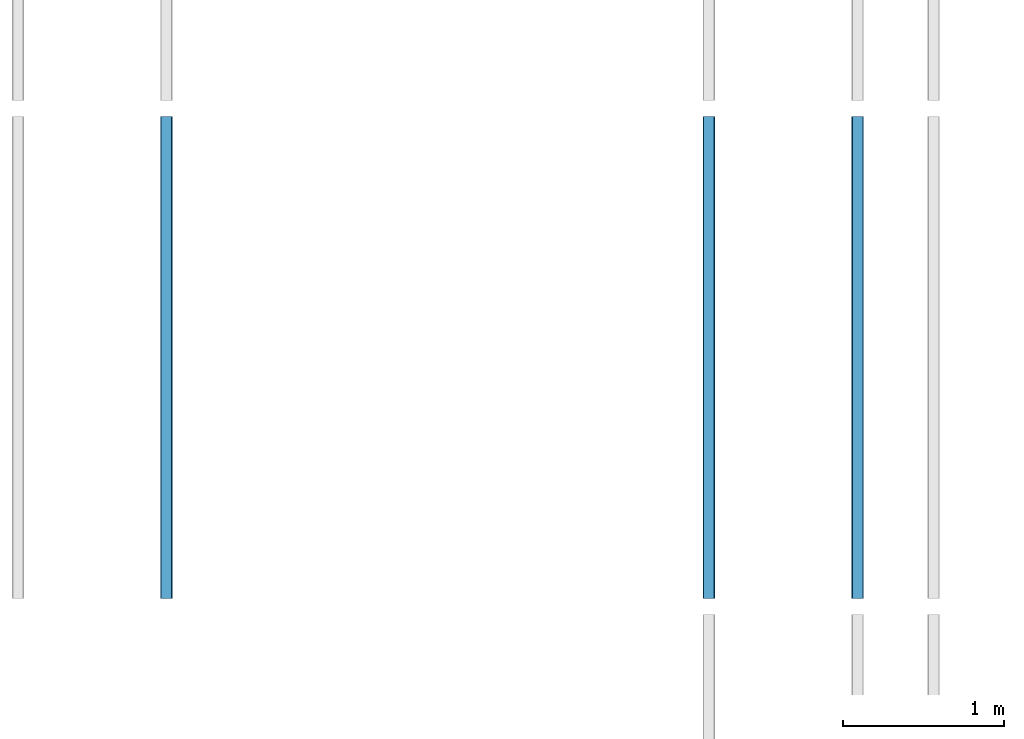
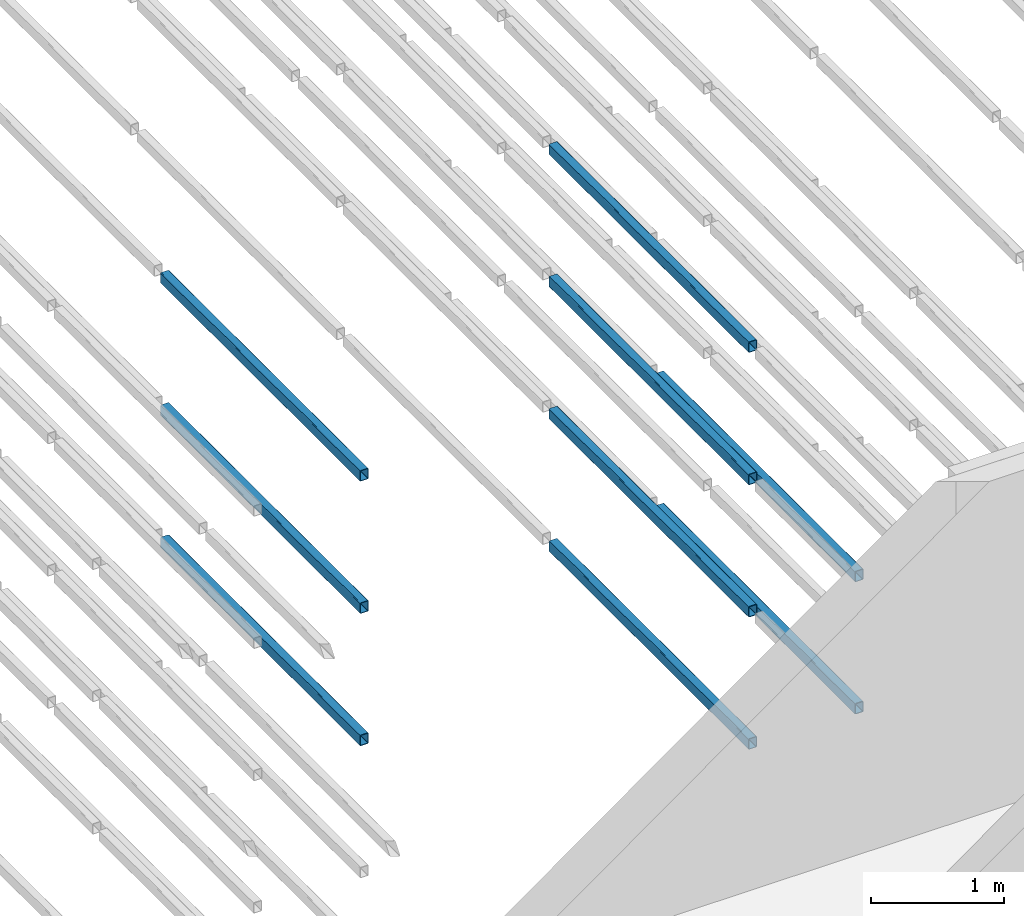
# One storey, part 25 of 290: 9 beams.
"""IFC2X3 building model written with IfcOpenShell, lengths in metres."""

from ifc_helpers import new_model, entity, si_unit, converted_unit, derived_unit, direction, frame, frame_2d, origin, place, context, subcontext, project, spatial, polyline, circle_curve, parameter, trimmed, segment, composite_curve, outline, extrude, material, type_object, element, save


model = new_model("IFC2X3")

# Units and contexts
model_context = context("Model", 3, precision=1e-05, world=origin(), true_north=direction((6.12303176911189e-17, 1.0)))
body_context = subcontext(model_context, "Body", "Model", "MODEL_VIEW")
ifc_project = project(units=[si_unit("LENGTHUNIT", "METRE"), si_unit("AREAUNIT", "SQUARE_METRE"), si_unit("VOLUMEUNIT", "CUBIC_METRE"), converted_unit("PLANEANGLEUNIT", "DEGREE", entity("IfcRatioMeasure", 0.0174532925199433), si_unit("PLANEANGLEUNIT", "RADIAN"), dimensions=[0, 0, 0, 0, 0, 0, 0]), si_unit("MASSUNIT", "GRAM", prefix="KILO"), derived_unit("MASSDENSITYUNIT", [(si_unit("MASSUNIT", "GRAM", prefix="KILO"), 1), (si_unit("LENGTHUNIT", "METRE"), -3)]), derived_unit("MOMENTOFINERTIAUNIT", [(si_unit("LENGTHUNIT", "METRE"), 4)]), si_unit("TIMEUNIT", "SECOND"), si_unit("FREQUENCYUNIT", "HERTZ"), si_unit("THERMODYNAMICTEMPERATUREUNIT", "DEGREE_CELSIUS"), derived_unit("THERMALTRANSMITTANCEUNIT", [(si_unit("MASSUNIT", "GRAM", prefix="KILO"), 1), (si_unit("THERMODYNAMICTEMPERATUREUNIT", "KELVIN"), -1), (si_unit("TIMEUNIT", "SECOND"), -3)]), derived_unit("VOLUMETRICFLOWRATEUNIT", [(si_unit("LENGTHUNIT", "METRE"), 3), (si_unit("TIMEUNIT", "SECOND"), -1)]), si_unit("ELECTRICCURRENTUNIT", "AMPERE"), si_unit("ELECTRICVOLTAGEUNIT", "VOLT"), si_unit("POWERUNIT", "WATT"), si_unit("FORCEUNIT", "NEWTON", prefix="KILO"), si_unit("ILLUMINANCEUNIT", "LUX"), si_unit("LUMINOUSFLUXUNIT", "LUMEN"), si_unit("LUMINOUSINTENSITYUNIT", "CANDELA"), derived_unit("USERDEFINED", [(si_unit("MASSUNIT", "GRAM", prefix="KILO"), -1), (si_unit("LENGTHUNIT", "METRE"), -2), (si_unit("TIMEUNIT", "SECOND"), 3), (si_unit("LUMINOUSFLUXUNIT", "LUMEN"), 1)]), derived_unit("LINEARVELOCITYUNIT", [(si_unit("LENGTHUNIT", "METRE"), 1), (si_unit("TIMEUNIT", "SECOND"), -1)]), si_unit("PRESSUREUNIT", "PASCAL"), derived_unit("USERDEFINED", [(si_unit("LENGTHUNIT", "METRE"), -2), (si_unit("MASSUNIT", "GRAM", prefix="KILO"), 1), (si_unit("TIMEUNIT", "SECOND"), -2)]), derived_unit("LINEARFORCEUNIT", [(si_unit("MASSUNIT", "GRAM", prefix="KILO"), 1), (si_unit("LENGTHUNIT", "METRE"), 1), (si_unit("TIMEUNIT", "SECOND"), -2), (si_unit("LENGTHUNIT", "METRE"), -1)]), derived_unit("PLANARFORCEUNIT", [(si_unit("MASSUNIT", "GRAM", prefix="KILO"), 1), (si_unit("LENGTHUNIT", "METRE"), 1), (si_unit("TIMEUNIT", "SECOND"), -2), (si_unit("LENGTHUNIT", "METRE"), -2)])], contexts=[model_context])

# Site, building, storey
site_placement = place(None, origin())
site = spatial("IfcSite", under=ifc_project, at=site_placement, Name="Default", CompositionType="ELEMENT")
building_placement = place(site_placement, origin())
building = spatial("IfcBuilding", under=site, at=building_placement, CompositionType="ELEMENT")
storey_placement = place(building_placement, frame((0.0, 0.0, 4.0)))
storey = spatial("IfcBuildingStorey", under=building, at=storey_placement, Name="01_OG", CompositionType="ELEMENT", Elevation=4.0)

# Beams
ifc_material = material(Name="Metall - Baustahl S235 blau")
beam_type = type_object("IfcBeamType", Name="RHS Träger (EN 10219-2):RHS 100 x 75 x 5", PredefinedType="NOTDEFINED")
beam_1_placement = place(storey_placement, frame((-194.165111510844, 27.148088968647, 0.0150000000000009), z_axis=(0.0, 0.0, 1.0), x_axis=(0.0, 1.0, 0.0)))
element("IfcBeam", 1, at=beam_1_placement, inside=storey, type_object=beam_type, material=ifc_material, Name="RHS Träger (EN 10219-2):RHS 100 x 75 x 5", ObjectType="RHS Träger (EN 10219-2):RHS 100 x 75 x 5", context=body_context, shape_type="SweptSolid", body=[
    extrude(outline(composite_curve([segment(polyline([(-0.0400000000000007, -0.0374999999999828), (0.0399999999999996, -0.0374999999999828)]), True, "CONTINUOUS"), segment(trimmed(circle_curve(frame_2d((0.0399999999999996, -0.0274999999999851), x_axis=(0.0, 1.0)), 0.01), [parameter(180.0)], [parameter(270.0)], True, "PARAMETER"), True, "CONTINUOUS"), segment(polyline([(0.0499999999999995, -0.0274999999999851), (0.0499999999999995, 0.0274999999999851)]), True, "CONTINUOUS"), segment(trimmed(circle_curve(frame_2d((0.0399999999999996, 0.0274999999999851), x_axis=(0.0, 1.0)), 0.01), [parameter(270.0)], [parameter(4.07110999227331e-13)], True, "PARAMETER"), True, "CONTINUOUS"), segment(polyline([(0.0399999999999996, 0.0375000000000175), (-0.0400000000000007, 0.0375000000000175)]), True, "CONTINUOUS"), segment(trimmed(circle_curve(frame_2d((-0.0400000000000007, 0.0274999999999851), x_axis=(0.0, 1.0)), 0.01), [parameter(360.0)], [parameter(90.0000000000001)], True, "PARAMETER"), True, "CONTINUOUS"), segment(polyline([(-0.0500000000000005, 0.0274999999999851), (-0.0500000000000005, -0.0274999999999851)]), True, "CONTINUOUS"), segment(trimmed(circle_curve(frame_2d((-0.0400000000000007, -0.0274999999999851), x_axis=(0.0, 1.0)), 0.01), [parameter(90.0000000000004)], [parameter(180.0)], True, "PARAMETER"), True, "CONTINUOUS")], self_intersect=False), holes=[composite_curve([segment(trimmed(circle_curve(frame_2d((-0.0400000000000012, 0.0274999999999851), x_axis=(0.0, 1.0)), 0.005), [parameter(360.0)], [parameter(89.9999999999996)], True, "PARAMETER"), False, "CONTINUOUS"), segment(polyline([(-0.0400000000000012, 0.0325000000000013), (0.0399999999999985, 0.0325000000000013)]), True, "CONTINUOUS"), segment(trimmed(circle_curve(frame_2d((0.0399999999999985, 0.0274999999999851), x_axis=(0.0, 1.0)), 0.005), [parameter(270.0)], [parameter(0.0)], True, "PARAMETER"), False, "CONTINUOUS"), segment(polyline([(0.0449999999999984, 0.0274999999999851), (0.0449999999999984, -0.0274999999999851)]), True, "CONTINUOUS"), segment(trimmed(circle_curve(frame_2d((0.0399999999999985, -0.0274999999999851), x_axis=(0.0, 1.0)), 0.005), [parameter(180.0)], [parameter(269.999999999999)], True, "PARAMETER"), False, "CONTINUOUS"), segment(polyline([(0.0399999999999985, -0.0325000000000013), (-0.0400000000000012, -0.0325000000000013)]), True, "CONTINUOUS"), segment(trimmed(circle_curve(frame_2d((-0.0400000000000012, -0.0274999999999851), x_axis=(0.0, 1.0)), 0.005), [parameter(90.0000000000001)], [parameter(180.0)], True, "PARAMETER"), False, "CONTINUOUS"), segment(polyline([(-0.0450000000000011, -0.0274999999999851), (-0.0450000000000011, 0.0274999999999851)]), True, "CONTINUOUS")], self_intersect=False)]), frame((0.000100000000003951, -0.0375000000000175, -0.0500000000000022), z_axis=(1.0, 0.0, 0.0), x_axis=(0.0, 0.0, -1.0)), (0.0, 0.0, 1.0), 2.9998),
])
beam_2_placement = place(storey_placement, frame((-194.165111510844, 27.148088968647, 1.23), z_axis=(0.0, 0.0, 1.0), x_axis=(0.0, 1.0, 0.0)))
element("IfcBeam", 2, at=beam_2_placement, inside=storey, type_object=beam_type, material=ifc_material, Name="RHS Träger (EN 10219-2):RHS 100 x 75 x 5", ObjectType="RHS Träger (EN 10219-2):RHS 100 x 75 x 5", context=body_context, shape_type="SweptSolid", body=[
    extrude(outline(composite_curve([segment(polyline([(-0.0399999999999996, -0.0374999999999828), (0.0399999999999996, -0.0374999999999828)]), True, "CONTINUOUS"), segment(trimmed(circle_curve(frame_2d((0.0399999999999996, -0.0274999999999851), x_axis=(0.0, 1.0)), 0.01), [parameter(180.0)], [parameter(270.0)], True, "PARAMETER"), True, "CONTINUOUS"), segment(polyline([(0.0500000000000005, -0.0274999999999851), (0.0500000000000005, 0.0274999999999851)]), True, "CONTINUOUS"), segment(trimmed(circle_curve(frame_2d((0.0399999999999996, 0.0274999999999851), x_axis=(0.0, 1.0)), 0.01), [parameter(270.0)], [parameter(4.07110999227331e-13)], True, "PARAMETER"), True, "CONTINUOUS"), segment(polyline([(0.0399999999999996, 0.0375000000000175), (-0.0399999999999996, 0.0375000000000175)]), True, "CONTINUOUS"), segment(trimmed(circle_curve(frame_2d((-0.0399999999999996, 0.0274999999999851), x_axis=(0.0, 1.0)), 0.01), [parameter(360.0)], [parameter(90.0000000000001)], True, "PARAMETER"), True, "CONTINUOUS"), segment(polyline([(-0.0499999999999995, 0.0274999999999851), (-0.0499999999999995, -0.0274999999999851)]), True, "CONTINUOUS"), segment(trimmed(circle_curve(frame_2d((-0.0399999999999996, -0.0274999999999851), x_axis=(0.0, 1.0)), 0.01), [parameter(90.0000000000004)], [parameter(180.0)], True, "PARAMETER"), True, "CONTINUOUS")], self_intersect=False), holes=[composite_curve([segment(trimmed(circle_curve(frame_2d((-0.0400000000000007, 0.0274999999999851), x_axis=(0.0, 1.0)), 0.005), [parameter(360.0)], [parameter(89.9999999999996)], True, "PARAMETER"), False, "CONTINUOUS"), segment(polyline([(-0.0400000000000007, 0.0325000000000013), (0.0399999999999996, 0.0325000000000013)]), True, "CONTINUOUS"), segment(trimmed(circle_curve(frame_2d((0.0399999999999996, 0.0274999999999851), x_axis=(0.0, 1.0)), 0.005), [parameter(270.0)], [parameter(0.0)], True, "PARAMETER"), False, "CONTINUOUS"), segment(polyline([(0.0449999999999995, 0.0274999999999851), (0.0449999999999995, -0.0274999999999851)]), True, "CONTINUOUS"), segment(trimmed(circle_curve(frame_2d((0.0399999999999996, -0.0274999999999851), x_axis=(0.0, 1.0)), 0.005), [parameter(180.0)], [parameter(269.999999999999)], True, "PARAMETER"), False, "CONTINUOUS"), segment(polyline([(0.0399999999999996, -0.0325000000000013), (-0.0400000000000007, -0.0325000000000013)]), True, "CONTINUOUS"), segment(trimmed(circle_curve(frame_2d((-0.0400000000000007, -0.0274999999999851), x_axis=(0.0, 1.0)), 0.005), [parameter(90.0000000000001)], [parameter(180.0)], True, "PARAMETER"), False, "CONTINUOUS"), segment(polyline([(-0.0450000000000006, -0.0274999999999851), (-0.0450000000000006, 0.0274999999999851)]), True, "CONTINUOUS")], self_intersect=False)]), frame((0.000100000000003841, -0.0375000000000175, -0.0500000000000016), z_axis=(1.0, 0.0, 0.0), x_axis=(0.0, 0.0, -1.0)), (0.0, 0.0, 1.0), 2.9998),
])
beam_3_placement = place(storey_placement, frame((-194.165111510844, 27.148088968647, 2.445), z_axis=(0.0, 0.0, 1.0), x_axis=(0.0, 1.0, 0.0)))
element("IfcBeam", 3, at=beam_3_placement, inside=storey, type_object=beam_type, material=ifc_material, Name="RHS Träger (EN 10219-2):RHS 100 x 75 x 5", ObjectType="RHS Träger (EN 10219-2):RHS 100 x 75 x 5", context=body_context, shape_type="SweptSolid", body=[
    extrude(outline(composite_curve([segment(polyline([(-0.0399999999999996, -0.0374999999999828), (0.0399999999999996, -0.0374999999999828)]), True, "CONTINUOUS"), segment(trimmed(circle_curve(frame_2d((0.0399999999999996, -0.0274999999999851), x_axis=(0.0, 1.0)), 0.01), [parameter(180.0)], [parameter(270.0)], True, "PARAMETER"), True, "CONTINUOUS"), segment(polyline([(0.0500000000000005, -0.0274999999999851), (0.0500000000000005, 0.0274999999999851)]), True, "CONTINUOUS"), segment(trimmed(circle_curve(frame_2d((0.0399999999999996, 0.0274999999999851), x_axis=(0.0, 1.0)), 0.01), [parameter(270.0)], [parameter(4.07110999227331e-13)], True, "PARAMETER"), True, "CONTINUOUS"), segment(polyline([(0.0399999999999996, 0.0375000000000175), (-0.0399999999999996, 0.0375000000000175)]), True, "CONTINUOUS"), segment(trimmed(circle_curve(frame_2d((-0.0399999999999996, 0.0274999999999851), x_axis=(0.0, 1.0)), 0.01), [parameter(360.0)], [parameter(90.0000000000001)], True, "PARAMETER"), True, "CONTINUOUS"), segment(polyline([(-0.0499999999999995, 0.0274999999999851), (-0.0499999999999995, -0.0274999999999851)]), True, "CONTINUOUS"), segment(trimmed(circle_curve(frame_2d((-0.0399999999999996, -0.0274999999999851), x_axis=(0.0, 1.0)), 0.01), [parameter(90.0000000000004)], [parameter(180.0)], True, "PARAMETER"), True, "CONTINUOUS")], self_intersect=False), holes=[composite_curve([segment(trimmed(circle_curve(frame_2d((-0.0400000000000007, 0.0274999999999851), x_axis=(0.0, 1.0)), 0.005), [parameter(360.0)], [parameter(89.9999999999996)], True, "PARAMETER"), False, "CONTINUOUS"), segment(polyline([(-0.0400000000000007, 0.0325000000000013), (0.0399999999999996, 0.0325000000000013)]), True, "CONTINUOUS"), segment(trimmed(circle_curve(frame_2d((0.0399999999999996, 0.0274999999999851), x_axis=(0.0, 1.0)), 0.005), [parameter(270.0)], [parameter(0.0)], True, "PARAMETER"), False, "CONTINUOUS"), segment(polyline([(0.0449999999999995, 0.0274999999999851), (0.0449999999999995, -0.0274999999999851)]), True, "CONTINUOUS"), segment(trimmed(circle_curve(frame_2d((0.0399999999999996, -0.0274999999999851), x_axis=(0.0, 1.0)), 0.005), [parameter(180.0)], [parameter(269.999999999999)], True, "PARAMETER"), False, "CONTINUOUS"), segment(polyline([(0.0399999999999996, -0.0325000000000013), (-0.0400000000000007, -0.0325000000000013)]), True, "CONTINUOUS"), segment(trimmed(circle_curve(frame_2d((-0.0400000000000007, -0.0274999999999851), x_axis=(0.0, 1.0)), 0.005), [parameter(90.0000000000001)], [parameter(180.0)], True, "PARAMETER"), False, "CONTINUOUS"), segment(polyline([(-0.0450000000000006, -0.0274999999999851), (-0.0450000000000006, 0.0274999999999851)]), True, "CONTINUOUS")], self_intersect=False)]), frame((0.000100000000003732, -0.0375000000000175, -0.0500000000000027), z_axis=(1.0, 0.0, 0.0), x_axis=(0.0, 0.0, -1.0)), (0.0, 0.0, 1.0), 2.9998),
])
beam_4_placement = place(storey_placement, frame((-190.715111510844, 27.148088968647, -1.2), z_axis=(0.0, 0.0, 1.0), x_axis=(0.0, 1.0, 0.0)))
element("IfcBeam", 4, at=beam_4_placement, inside=storey, type_object=beam_type, material=ifc_material, Name="RHS Träger (EN 10219-2):RHS 100 x 75 x 5", ObjectType="RHS Träger (EN 10219-2):RHS 100 x 75 x 5", context=body_context, shape_type="SweptSolid", body=[
    extrude(outline(composite_curve([segment(trimmed(circle_curve(frame_2d((-0.0274999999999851, -0.0400000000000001), x_axis=(1.0, 0.0)), 0.01), [parameter(180.0)], [parameter(270.0)], True, "PARAMETER"), True, "CONTINUOUS"), segment(polyline([(-0.0274999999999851, -0.05), (0.0274999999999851, -0.05)]), True, "CONTINUOUS"), segment(trimmed(circle_curve(frame_2d((0.0274999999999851, -0.0400000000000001), x_axis=(1.0, 0.0)), 0.01), [parameter(270.0)], [parameter(5.08888749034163e-14)], True, "PARAMETER"), True, "CONTINUOUS"), segment(polyline([(0.0375000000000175, -0.0400000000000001), (0.0375000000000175, 0.0400000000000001)]), True, "CONTINUOUS"), segment(trimmed(circle_curve(frame_2d((0.0274999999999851, 0.0400000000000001), x_axis=(1.0, 0.0)), 0.01), [parameter(360.0)], [parameter(89.9999999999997)], True, "PARAMETER"), True, "CONTINUOUS"), segment(polyline([(0.0274999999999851, 0.05), (-0.0274999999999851, 0.05)]), True, "CONTINUOUS"), segment(trimmed(circle_curve(frame_2d((-0.0274999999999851, 0.0400000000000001), x_axis=(1.0, 0.0)), 0.01), [parameter(90.0000000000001)], [parameter(180.0)], True, "PARAMETER"), True, "CONTINUOUS"), segment(polyline([(-0.0374999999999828, 0.0400000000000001), (-0.0374999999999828, -0.0400000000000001)]), True, "CONTINUOUS")], self_intersect=False), holes=[composite_curve([segment(polyline([(0.0274999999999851, -0.0450000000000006), (-0.0274999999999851, -0.0450000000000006)]), True, "CONTINUOUS"), segment(trimmed(circle_curve(frame_2d((-0.0274999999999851, -0.0400000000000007), x_axis=(1.0, 0.0)), 0.005), [parameter(180.0)], [parameter(270.0)], True, "PARAMETER"), False, "CONTINUOUS"), segment(polyline([(-0.0325000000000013, -0.0400000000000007), (-0.0325000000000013, 0.039999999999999)]), True, "CONTINUOUS"), segment(trimmed(circle_curve(frame_2d((-0.0274999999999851, 0.039999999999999), x_axis=(1.0, 0.0)), 0.005), [parameter(90.0000000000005)], [parameter(180.0)], True, "PARAMETER"), False, "CONTINUOUS"), segment(polyline([(-0.0274999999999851, 0.044999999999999), (0.0274999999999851, 0.044999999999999)]), True, "CONTINUOUS"), segment(trimmed(circle_curve(frame_2d((0.0274999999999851, 0.039999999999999), x_axis=(1.0, 0.0)), 0.005), [parameter(0.0)], [parameter(90.0000000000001)], True, "PARAMETER"), False, "CONTINUOUS"), segment(polyline([(0.0325000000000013, 0.039999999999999), (0.0325000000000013, -0.0400000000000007)]), True, "CONTINUOUS"), segment(trimmed(circle_curve(frame_2d((0.0274999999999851, -0.0400000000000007), x_axis=(1.0, 0.0)), 0.005), [parameter(270.0)], [parameter(4.07110999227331e-13)], True, "PARAMETER"), False, "CONTINUOUS")], self_intersect=False)]), frame((9.99999999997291e-05, 0.0375000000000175, -0.0500000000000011), z_axis=(1.0, 0.0, 0.0), x_axis=(0.0, -1.0, 0.0)), (0.0, 0.0, 1.0), 2.9998),
])
beam_5_placement = place(storey_placement, frame((-190.715111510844, 27.148088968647, 0.0150000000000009), z_axis=(0.0, 0.0, 1.0), x_axis=(0.0, 1.0, 0.0)))
element("IfcBeam", 5, at=beam_5_placement, inside=storey, type_object=beam_type, material=ifc_material, Name="RHS Träger (EN 10219-2):RHS 100 x 75 x 5", ObjectType="RHS Träger (EN 10219-2):RHS 100 x 75 x 5", context=body_context, shape_type="SweptSolid", body=[
    extrude(outline(composite_curve([segment(trimmed(circle_curve(frame_2d((-0.0274999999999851, -0.0400000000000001), x_axis=(1.0, 0.0)), 0.01), [parameter(180.0)], [parameter(270.0)], True, "PARAMETER"), True, "CONTINUOUS"), segment(polyline([(-0.0274999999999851, -0.05), (0.0274999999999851, -0.05)]), True, "CONTINUOUS"), segment(trimmed(circle_curve(frame_2d((0.0274999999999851, -0.0400000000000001), x_axis=(1.0, 0.0)), 0.01), [parameter(270.0)], [parameter(5.08888749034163e-14)], True, "PARAMETER"), True, "CONTINUOUS"), segment(polyline([(0.0375000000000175, -0.0400000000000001), (0.0375000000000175, 0.0400000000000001)]), True, "CONTINUOUS"), segment(trimmed(circle_curve(frame_2d((0.0274999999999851, 0.0400000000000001), x_axis=(1.0, 0.0)), 0.01), [parameter(360.0)], [parameter(89.9999999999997)], True, "PARAMETER"), True, "CONTINUOUS"), segment(polyline([(0.0274999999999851, 0.05), (-0.0274999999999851, 0.05)]), True, "CONTINUOUS"), segment(trimmed(circle_curve(frame_2d((-0.0274999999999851, 0.0400000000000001), x_axis=(1.0, 0.0)), 0.01), [parameter(90.0000000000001)], [parameter(180.0)], True, "PARAMETER"), True, "CONTINUOUS"), segment(polyline([(-0.0374999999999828, 0.0400000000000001), (-0.0374999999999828, -0.0400000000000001)]), True, "CONTINUOUS")], self_intersect=False), holes=[composite_curve([segment(polyline([(0.0274999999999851, -0.0450000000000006), (-0.0274999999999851, -0.0450000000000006)]), True, "CONTINUOUS"), segment(trimmed(circle_curve(frame_2d((-0.0274999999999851, -0.0400000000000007), x_axis=(1.0, 0.0)), 0.005), [parameter(180.0)], [parameter(270.0)], True, "PARAMETER"), False, "CONTINUOUS"), segment(polyline([(-0.0325000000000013, -0.0400000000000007), (-0.0325000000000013, 0.039999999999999)]), True, "CONTINUOUS"), segment(trimmed(circle_curve(frame_2d((-0.0274999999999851, 0.039999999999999), x_axis=(1.0, 0.0)), 0.005), [parameter(90.0000000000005)], [parameter(180.0)], True, "PARAMETER"), False, "CONTINUOUS"), segment(polyline([(-0.0274999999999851, 0.044999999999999), (0.0274999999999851, 0.044999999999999)]), True, "CONTINUOUS"), segment(trimmed(circle_curve(frame_2d((0.0274999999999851, 0.039999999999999), x_axis=(1.0, 0.0)), 0.005), [parameter(0.0)], [parameter(90.0000000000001)], True, "PARAMETER"), False, "CONTINUOUS"), segment(polyline([(0.0325000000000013, 0.039999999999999), (0.0325000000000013, -0.0400000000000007)]), True, "CONTINUOUS"), segment(trimmed(circle_curve(frame_2d((0.0274999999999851, -0.0400000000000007), x_axis=(1.0, 0.0)), 0.005), [parameter(270.0)], [parameter(4.07110999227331e-13)], True, "PARAMETER"), False, "CONTINUOUS")], self_intersect=False)]), frame((9.99999999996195e-05, 0.0375000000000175, -0.0500000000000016), z_axis=(1.0, 0.0, 0.0), x_axis=(0.0, -1.0, 0.0)), (0.0, 0.0, 1.0), 2.9998),
])
beam_6_placement = place(storey_placement, frame((-190.715111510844, 27.148088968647, 1.23), z_axis=(0.0, 0.0, 1.0), x_axis=(0.0, 1.0, 0.0)))
element("IfcBeam", 6, at=beam_6_placement, inside=storey, type_object=beam_type, material=ifc_material, Name="RHS Träger (EN 10219-2):RHS 100 x 75 x 5", ObjectType="RHS Träger (EN 10219-2):RHS 100 x 75 x 5", context=body_context, shape_type="SweptSolid", body=[
    extrude(outline(composite_curve([segment(trimmed(circle_curve(frame_2d((-0.0274999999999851, -0.0399999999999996), x_axis=(1.0, 0.0)), 0.01), [parameter(180.0)], [parameter(270.0)], True, "PARAMETER"), True, "CONTINUOUS"), segment(polyline([(-0.0274999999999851, -0.0499999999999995), (0.0274999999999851, -0.0499999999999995)]), True, "CONTINUOUS"), segment(trimmed(circle_curve(frame_2d((0.0274999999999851, -0.0399999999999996), x_axis=(1.0, 0.0)), 0.01), [parameter(270.0)], [parameter(5.08888749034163e-14)], True, "PARAMETER"), True, "CONTINUOUS"), segment(polyline([(0.0375000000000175, -0.0399999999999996), (0.0375000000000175, 0.0399999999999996)]), True, "CONTINUOUS"), segment(trimmed(circle_curve(frame_2d((0.0274999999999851, 0.0399999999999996), x_axis=(1.0, 0.0)), 0.01), [parameter(360.0)], [parameter(89.9999999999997)], True, "PARAMETER"), True, "CONTINUOUS"), segment(polyline([(0.0274999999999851, 0.0500000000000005), (-0.0274999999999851, 0.0500000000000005)]), True, "CONTINUOUS"), segment(trimmed(circle_curve(frame_2d((-0.0274999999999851, 0.0399999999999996), x_axis=(1.0, 0.0)), 0.01), [parameter(90.0000000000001)], [parameter(180.0)], True, "PARAMETER"), True, "CONTINUOUS"), segment(polyline([(-0.0374999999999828, 0.0399999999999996), (-0.0374999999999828, -0.0399999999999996)]), True, "CONTINUOUS")], self_intersect=False), holes=[composite_curve([segment(polyline([(0.0274999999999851, -0.0450000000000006), (-0.0274999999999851, -0.0450000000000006)]), True, "CONTINUOUS"), segment(trimmed(circle_curve(frame_2d((-0.0274999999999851, -0.0400000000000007), x_axis=(1.0, 0.0)), 0.005), [parameter(180.0)], [parameter(270.0)], True, "PARAMETER"), False, "CONTINUOUS"), segment(polyline([(-0.0325000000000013, -0.0400000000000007), (-0.0325000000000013, 0.0399999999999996)]), True, "CONTINUOUS"), segment(trimmed(circle_curve(frame_2d((-0.0274999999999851, 0.0399999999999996), x_axis=(1.0, 0.0)), 0.005), [parameter(90.0000000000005)], [parameter(180.0)], True, "PARAMETER"), False, "CONTINUOUS"), segment(polyline([(-0.0274999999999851, 0.0449999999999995), (0.0274999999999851, 0.0449999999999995)]), True, "CONTINUOUS"), segment(trimmed(circle_curve(frame_2d((0.0274999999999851, 0.0399999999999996), x_axis=(1.0, 0.0)), 0.005), [parameter(0.0)], [parameter(90.0000000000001)], True, "PARAMETER"), False, "CONTINUOUS"), segment(polyline([(0.0325000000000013, 0.0399999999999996), (0.0325000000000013, -0.0400000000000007)]), True, "CONTINUOUS"), segment(trimmed(circle_curve(frame_2d((0.0274999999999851, -0.0400000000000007), x_axis=(1.0, 0.0)), 0.005), [parameter(270.0)], [parameter(4.07110999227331e-13)], True, "PARAMETER"), False, "CONTINUOUS")], self_intersect=False)]), frame((9.99999999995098e-05, 0.0375000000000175, -0.0500000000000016), z_axis=(1.0, 0.0, 0.0), x_axis=(0.0, -1.0, 0.0)), (0.0, 0.0, 1.0), 2.9998),
])
beam_7_placement = place(storey_placement, frame((-190.715111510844, 27.148088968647, 2.445), z_axis=(0.0, 0.0, 1.0), x_axis=(0.0, 1.0, 0.0)))
element("IfcBeam", 7, at=beam_7_placement, inside=storey, type_object=beam_type, material=ifc_material, Name="RHS Träger (EN 10219-2):RHS 100 x 75 x 5", ObjectType="RHS Träger (EN 10219-2):RHS 100 x 75 x 5", context=body_context, shape_type="SweptSolid", body=[
    extrude(outline(composite_curve([segment(trimmed(circle_curve(frame_2d((-0.0274999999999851, -0.0399999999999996), x_axis=(1.0, 0.0)), 0.01), [parameter(180.0)], [parameter(270.0)], True, "PARAMETER"), True, "CONTINUOUS"), segment(polyline([(-0.0274999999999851, -0.0499999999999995), (0.0274999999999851, -0.0499999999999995)]), True, "CONTINUOUS"), segment(trimmed(circle_curve(frame_2d((0.0274999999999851, -0.0399999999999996), x_axis=(1.0, 0.0)), 0.01), [parameter(270.0)], [parameter(5.08888749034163e-14)], True, "PARAMETER"), True, "CONTINUOUS"), segment(polyline([(0.0375000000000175, -0.0399999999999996), (0.0375000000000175, 0.0399999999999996)]), True, "CONTINUOUS"), segment(trimmed(circle_curve(frame_2d((0.0274999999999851, 0.0399999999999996), x_axis=(1.0, 0.0)), 0.01), [parameter(360.0)], [parameter(89.9999999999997)], True, "PARAMETER"), True, "CONTINUOUS"), segment(polyline([(0.0274999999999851, 0.0500000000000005), (-0.0274999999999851, 0.0500000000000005)]), True, "CONTINUOUS"), segment(trimmed(circle_curve(frame_2d((-0.0274999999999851, 0.0399999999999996), x_axis=(1.0, 0.0)), 0.01), [parameter(90.0000000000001)], [parameter(180.0)], True, "PARAMETER"), True, "CONTINUOUS"), segment(polyline([(-0.0374999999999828, 0.0399999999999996), (-0.0374999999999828, -0.0399999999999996)]), True, "CONTINUOUS")], self_intersect=False), holes=[composite_curve([segment(polyline([(0.0274999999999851, -0.0450000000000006), (-0.0274999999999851, -0.0450000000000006)]), True, "CONTINUOUS"), segment(trimmed(circle_curve(frame_2d((-0.0274999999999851, -0.0400000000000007), x_axis=(1.0, 0.0)), 0.005), [parameter(180.0)], [parameter(270.0)], True, "PARAMETER"), False, "CONTINUOUS"), segment(polyline([(-0.0325000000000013, -0.0400000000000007), (-0.0325000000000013, 0.0399999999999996)]), True, "CONTINUOUS"), segment(trimmed(circle_curve(frame_2d((-0.0274999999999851, 0.0399999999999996), x_axis=(1.0, 0.0)), 0.005), [parameter(90.0000000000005)], [parameter(180.0)], True, "PARAMETER"), False, "CONTINUOUS"), segment(polyline([(-0.0274999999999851, 0.0449999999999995), (0.0274999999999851, 0.0449999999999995)]), True, "CONTINUOUS"), segment(trimmed(circle_curve(frame_2d((0.0274999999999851, 0.0399999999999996), x_axis=(1.0, 0.0)), 0.005), [parameter(0.0)], [parameter(90.0000000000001)], True, "PARAMETER"), False, "CONTINUOUS"), segment(polyline([(0.0325000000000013, 0.0399999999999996), (0.0325000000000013, -0.0400000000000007)]), True, "CONTINUOUS"), segment(trimmed(circle_curve(frame_2d((0.0274999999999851, -0.0400000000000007), x_axis=(1.0, 0.0)), 0.005), [parameter(270.0)], [parameter(4.07110999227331e-13)], True, "PARAMETER"), False, "CONTINUOUS")], self_intersect=False)]), frame((9.99999999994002e-05, 0.0375000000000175, -0.0500000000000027), z_axis=(1.0, 0.0, 0.0), x_axis=(0.0, -1.0, 0.0)), (0.0, 0.0, 1.0), 2.9998),
])
beam_8_placement = place(storey_placement, frame((-189.865111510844, 27.148088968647, -1.2), z_axis=(0.0, 0.0, 1.0), x_axis=(0.0, 1.0, 0.0)))
element("IfcBeam", 8, at=beam_8_placement, inside=storey, type_object=beam_type, material=ifc_material, Name="RHS Träger (EN 10219-2):RHS 100 x 75 x 5", ObjectType="RHS Träger (EN 10219-2):RHS 100 x 75 x 5", context=body_context, shape_type="SweptSolid", body=[
    extrude(outline(composite_curve([segment(polyline([(-0.0400000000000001, -0.0375000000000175), (0.0400000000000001, -0.0375000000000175)]), True, "CONTINUOUS"), segment(trimmed(circle_curve(frame_2d((0.0400000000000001, -0.0275000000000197), x_axis=(0.0, 1.0)), 0.01), [parameter(180.0)], [parameter(270.0)], True, "PARAMETER"), True, "CONTINUOUS"), segment(polyline([(0.05, -0.0275000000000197), (0.05, 0.0274999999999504)]), True, "CONTINUOUS"), segment(trimmed(circle_curve(frame_2d((0.0400000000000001, 0.0274999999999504), x_axis=(0.0, 1.0)), 0.01), [parameter(270.0)], [parameter(4.07110999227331e-13)], True, "PARAMETER"), True, "CONTINUOUS"), segment(polyline([(0.0400000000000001, 0.0374999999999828), (-0.0400000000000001, 0.0374999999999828)]), True, "CONTINUOUS"), segment(trimmed(circle_curve(frame_2d((-0.0400000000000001, 0.0274999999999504), x_axis=(0.0, 1.0)), 0.01), [parameter(360.0)], [parameter(90.0000000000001)], True, "PARAMETER"), True, "CONTINUOUS"), segment(polyline([(-0.05, 0.0274999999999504), (-0.05, -0.0275000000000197)]), True, "CONTINUOUS"), segment(trimmed(circle_curve(frame_2d((-0.0400000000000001, -0.0275000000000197), x_axis=(0.0, 1.0)), 0.01), [parameter(90.0000000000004)], [parameter(180.0)], True, "PARAMETER"), True, "CONTINUOUS")], self_intersect=False), holes=[composite_curve([segment(trimmed(circle_curve(frame_2d((-0.0400000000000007, 0.0274999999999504), x_axis=(0.0, 1.0)), 0.005), [parameter(360.0)], [parameter(89.9999999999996)], True, "PARAMETER"), False, "CONTINUOUS"), segment(polyline([(-0.0400000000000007, 0.0324999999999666), (0.039999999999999, 0.0324999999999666)]), True, "CONTINUOUS"), segment(trimmed(circle_curve(frame_2d((0.039999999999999, 0.0274999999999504), x_axis=(0.0, 1.0)), 0.005), [parameter(270.0)], [parameter(0.0)], True, "PARAMETER"), False, "CONTINUOUS"), segment(polyline([(0.044999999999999, 0.0274999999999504), (0.044999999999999, -0.0275000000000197)]), True, "CONTINUOUS"), segment(trimmed(circle_curve(frame_2d((0.039999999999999, -0.0275000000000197), x_axis=(0.0, 1.0)), 0.005), [parameter(180.0)], [parameter(269.999999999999)], True, "PARAMETER"), False, "CONTINUOUS"), segment(polyline([(0.039999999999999, -0.0325000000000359), (-0.0400000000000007, -0.0325000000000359)]), True, "CONTINUOUS"), segment(trimmed(circle_curve(frame_2d((-0.0400000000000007, -0.0275000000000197), x_axis=(0.0, 1.0)), 0.005), [parameter(90.0000000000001)], [parameter(180.0)], True, "PARAMETER"), False, "CONTINUOUS"), segment(polyline([(-0.0450000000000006, -0.0275000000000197), (-0.0450000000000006, 0.0274999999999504)]), True, "CONTINUOUS")], self_intersect=False)]), frame((9.99999999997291e-05, -0.0374999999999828, -0.0500000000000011), z_axis=(1.0, 0.0, 0.0), x_axis=(0.0, 0.0, -1.0)), (0.0, 0.0, 1.0), 2.9998),
])
beam_9_placement = place(storey_placement, frame((-189.865111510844, 27.148088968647, 0.0150000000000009), z_axis=(0.0, 0.0, 1.0), x_axis=(0.0, 1.0, 0.0)))
element("IfcBeam", 9, at=beam_9_placement, inside=storey, type_object=beam_type, material=ifc_material, Name="RHS Träger (EN 10219-2):RHS 100 x 75 x 5", ObjectType="RHS Träger (EN 10219-2):RHS 100 x 75 x 5", context=body_context, shape_type="SweptSolid", body=[
    extrude(outline(composite_curve([segment(polyline([(-0.0400000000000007, -0.0375000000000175), (0.0399999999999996, -0.0375000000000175)]), True, "CONTINUOUS"), segment(trimmed(circle_curve(frame_2d((0.0399999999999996, -0.0275000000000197), x_axis=(0.0, 1.0)), 0.01), [parameter(180.0)], [parameter(270.0)], True, "PARAMETER"), True, "CONTINUOUS"), segment(polyline([(0.0499999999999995, -0.0275000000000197), (0.0499999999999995, 0.0274999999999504)]), True, "CONTINUOUS"), segment(trimmed(circle_curve(frame_2d((0.0399999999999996, 0.0274999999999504), x_axis=(0.0, 1.0)), 0.01), [parameter(270.0)], [parameter(4.07110999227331e-13)], True, "PARAMETER"), True, "CONTINUOUS"), segment(polyline([(0.0399999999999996, 0.0374999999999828), (-0.0400000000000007, 0.0374999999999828)]), True, "CONTINUOUS"), segment(trimmed(circle_curve(frame_2d((-0.0400000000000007, 0.0274999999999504), x_axis=(0.0, 1.0)), 0.01), [parameter(360.0)], [parameter(90.0000000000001)], True, "PARAMETER"), True, "CONTINUOUS"), segment(polyline([(-0.0500000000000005, 0.0274999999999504), (-0.0500000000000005, -0.0275000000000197)]), True, "CONTINUOUS"), segment(trimmed(circle_curve(frame_2d((-0.0400000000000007, -0.0275000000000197), x_axis=(0.0, 1.0)), 0.01), [parameter(90.0000000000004)], [parameter(180.0)], True, "PARAMETER"), True, "CONTINUOUS")], self_intersect=False), holes=[composite_curve([segment(trimmed(circle_curve(frame_2d((-0.0400000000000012, 0.0274999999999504), x_axis=(0.0, 1.0)), 0.005), [parameter(360.0)], [parameter(89.9999999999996)], True, "PARAMETER"), False, "CONTINUOUS"), segment(polyline([(-0.0400000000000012, 0.0324999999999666), (0.0399999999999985, 0.0324999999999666)]), True, "CONTINUOUS"), segment(trimmed(circle_curve(frame_2d((0.0399999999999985, 0.0274999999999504), x_axis=(0.0, 1.0)), 0.005), [parameter(270.0)], [parameter(0.0)], True, "PARAMETER"), False, "CONTINUOUS"), segment(polyline([(0.0449999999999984, 0.0274999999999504), (0.0449999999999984, -0.0275000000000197)]), True, "CONTINUOUS"), segment(trimmed(circle_curve(frame_2d((0.0399999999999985, -0.0275000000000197), x_axis=(0.0, 1.0)), 0.005), [parameter(180.0)], [parameter(269.999999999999)], True, "PARAMETER"), False, "CONTINUOUS"), segment(polyline([(0.0399999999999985, -0.0325000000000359), (-0.0400000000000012, -0.0325000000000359)]), True, "CONTINUOUS"), segment(trimmed(circle_curve(frame_2d((-0.0400000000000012, -0.0275000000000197), x_axis=(0.0, 1.0)), 0.005), [parameter(90.0000000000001)], [parameter(180.0)], True, "PARAMETER"), False, "CONTINUOUS"), segment(polyline([(-0.0450000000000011, -0.0275000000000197), (-0.0450000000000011, 0.0274999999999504)]), True, "CONTINUOUS")], self_intersect=False)]), frame((9.99999999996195e-05, -0.0374999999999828, -0.0500000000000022), z_axis=(1.0, 0.0, 0.0), x_axis=(0.0, 0.0, -1.0)), (0.0, 0.0, 1.0), 2.9998),
])

save(model, "model.ifc")
